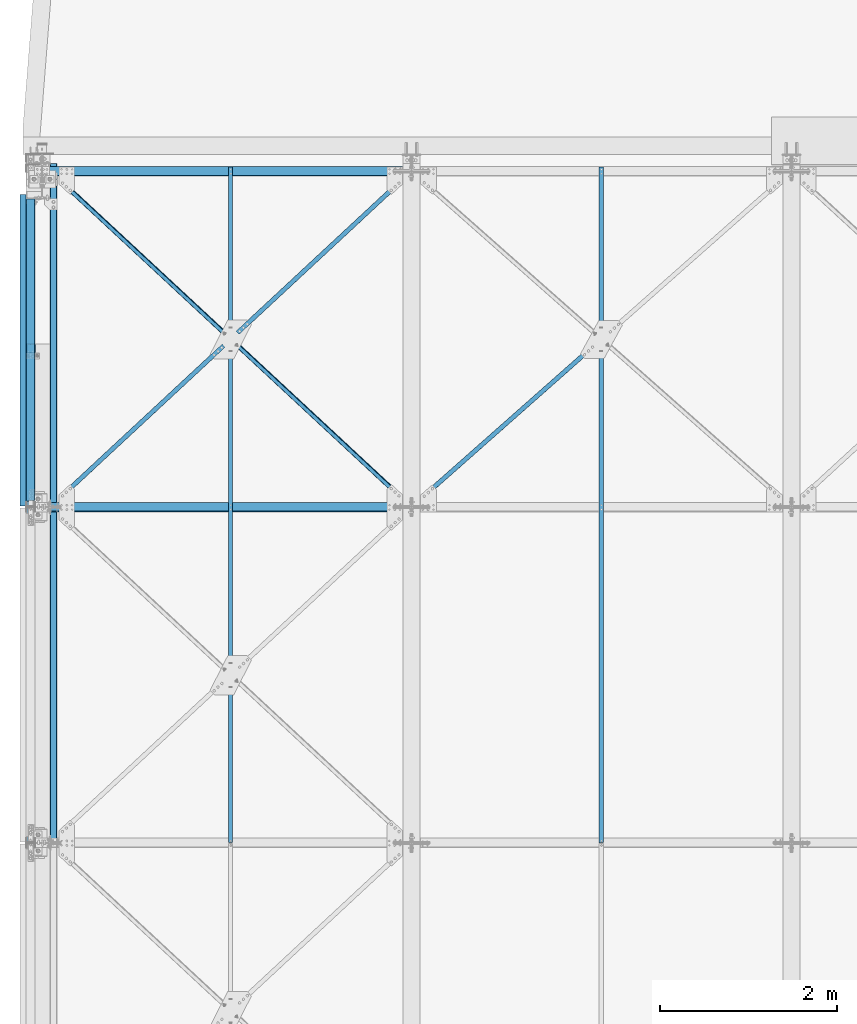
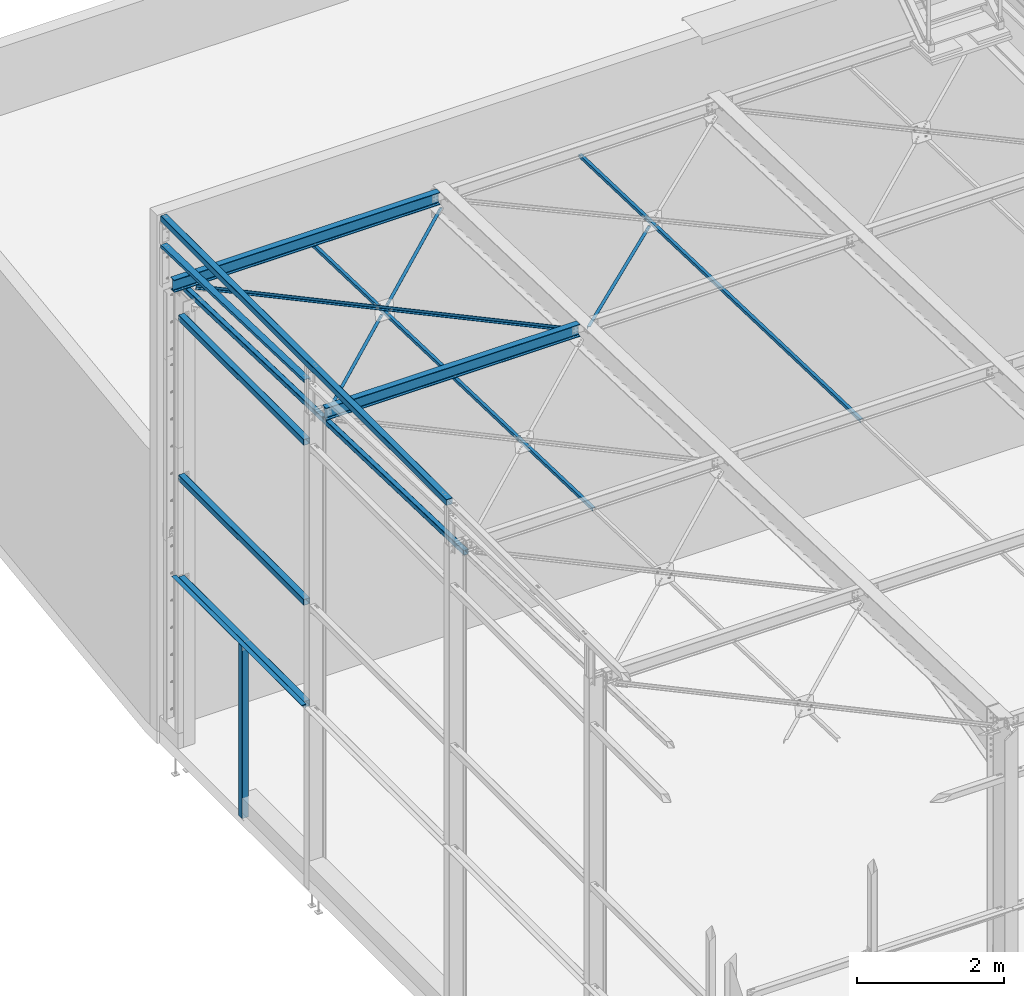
# One storey, part 44 of 362: 16 beams, 15 elements without a shape of their own.
"""IFC2X3 building model written with IfcOpenShell, lengths in millimetres."""

from ifc_helpers import new_model, si_unit, frame, origin_with_axes, origin_2d_with_axis, place, context, subcontext, project, spatial, polyline, hollow_rectangle, i_section, l_section, u_section, outline, extrude, boolean, clip, halfspace, material, type_object, element, aggregate, save


model = new_model("IFC2X3")

# Units and contexts
model_context = context("Model", 3, precision=1e-05, world=origin_with_axes())
body_context = subcontext(model_context, "Body", "Model", "MODEL_VIEW")
ifc_project = project(units=[si_unit("LENGTHUNIT", "METRE", prefix="MILLI"), si_unit("AREAUNIT", "SQUARE_METRE"), si_unit("VOLUMEUNIT", "CUBIC_METRE"), si_unit("MASSUNIT", "GRAM", prefix="KILO"), si_unit("TIMEUNIT", "SECOND"), si_unit("PLANEANGLEUNIT", "RADIAN"), si_unit("SOLIDANGLEUNIT", "STERADIAN"), si_unit("THERMODYNAMICTEMPERATUREUNIT", "DEGREE_CELSIUS"), si_unit("LUMINOUSINTENSITYUNIT", "LUMEN")], contexts=[model_context])

# Site, building, storey
site_placement = place(None, origin_with_axes())
site = spatial("IfcSite", under=ifc_project, at=site_placement, Name="Undefined", CompositionType="ELEMENT")
building_placement = place(site_placement, origin_with_axes())
building = spatial("IfcBuilding", under=site, at=building_placement, Name="Undefined", CompositionType="ELEMENT")
storey_placement = place(building_placement, origin_with_axes())
storey = spatial("IfcBuildingStorey", under=building, at=storey_placement, Name="Undefined", CompositionType="ELEMENT", Elevation=0.0)

# Assembly, beam
assembly_1_placement = place(storey_placement, origin_with_axes())
assembly_1 = element("IfcElementAssembly", 1, at=assembly_1_placement, inside=storey, AssemblyPlace="NOTDEFINED", PredefinedType="NOTDEFINED")
ifc_material_1 = material(Name="Undefined/S235-E24")
beam_type_1 = type_object("IfcBeamType", Name="L50*5", PredefinedType="NOTDEFINED")
beam_1_placement = place(assembly_1_placement, frame((6327.00001266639, 7601.07123855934, 7586.01904275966), z_axis=(1.0, 0.0, 0.0), x_axis=(3.14103090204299e-11, 0.999506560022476, -0.0314107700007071)))
beam_1 = element("IfcBeam", 2, at=beam_1_placement, type_object=beam_type_1, material=ifc_material_1, Name="LIERNE", ObjectType="L50*5", context=body_context, shape_type="SweptSolid", body=[
    extrude(l_section(Depth=50.0, Width=50.0, Thickness=5.0, FilletRadius=7.0, EdgeRadius=3.5, at=origin_2d_with_axis()), frame((7648.75199419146, 0.0, 0.0), z_axis=(-1.0, 0.0, 0.0), x_axis=(0.0, -1.0, 0.0)), (0.0, 0.0, 1.0), 7648.75),
])
aggregate(assembly_1, [beam_1])

assembly_2_placement = place(storey_placement, origin_with_axes())
assembly_2 = element("IfcElementAssembly", 3, at=assembly_2_placement, inside=storey, AssemblyPlace="NOTDEFINED", PredefinedType="NOTDEFINED")
beam_2_placement = place(assembly_2_placement, frame((2132.95747872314, 13298.0808843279, 7400.97343607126), z_axis=(0.680837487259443, -0.732073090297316, 0.0230066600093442), x_axis=(0.732434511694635, 0.680501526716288, -0.0213859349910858)))
beam_2 = element("IfcBeam", 4, at=beam_2_placement, type_object=beam_type_1, material=ifc_material_1, Name="STABILITE CVT", ObjectType="L50*5", context=body_context, shape_type="Clipping", body=[
    clip(clip(extrude(l_section(Depth=50.0, Width=50.0, Thickness=5.0, FilletRadius=7.0, EdgeRadius=3.5, at=origin_2d_with_axis()), frame((2792.0585021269, 0.0, -9.94557782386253e-13), z_axis=(-1.0, 0.0, 0.0), x_axis=(0.0, -1.0, 0.0)), (0.0, 0.0, 1.0), 2736.72), halfspace(frame((2629.60191761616, 24.9946613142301, 24.996458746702), z_axis=(0.999999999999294, 3.87284877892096e-07, -1.12347404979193e-06), x_axis=(-1.12347383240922e-06, -5.61299022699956e-07, -0.999999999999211)), False)), halfspace(frame((106.894615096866, 31.0043411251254, 25.0000010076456), z_axis=(1.0, 0.0, 0.0), x_axis=(0.0, 1.0, 0.0)), True)),
])
aggregate(assembly_2, [beam_2])

assembly_3_placement = place(storey_placement, origin_with_axes())
assembly_3 = element("IfcElementAssembly", 5, at=assembly_3_placement, inside=storey, AssemblyPlace="NOTDEFINED", PredefinedType="NOTDEFINED")
beam_3_placement = place(assembly_3_placement, frame((2132.00001266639, 7601.07123857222, 7586.01904275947), z_axis=(1.0, 0.0, 0.0), x_axis=(3.14103090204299e-11, 0.999506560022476, -0.0314107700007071)))
beam_3 = element("IfcBeam", 6, at=beam_3_placement, type_object=beam_type_1, material=ifc_material_1, Name="LIERNE", ObjectType="L50*5", context=body_context, shape_type="SweptSolid", body=[
    extrude(l_section(Depth=50.0, Width=50.0, Thickness=5.0, FilletRadius=7.0, EdgeRadius=3.5, at=origin_2d_with_axis()), frame((7648.75199419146, 0.0, 0.0), z_axis=(-1.0, 0.0, 0.0), x_axis=(0.0, -1.0, 0.0)), (0.0, 0.0, 1.0), 7648.75),
])
aggregate(assembly_3, [beam_3])

assembly_4_placement = place(storey_placement, origin_with_axes())
assembly_4 = element("IfcElementAssembly", 7, at=assembly_4_placement, inside=storey, AssemblyPlace="NOTDEFINED", PredefinedType="NOTDEFINED")
beam_4_placement = place(assembly_4_placement, frame((4182.04254050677, 11399.8399519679, 7516.65952718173), z_axis=(-0.680837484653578, -0.732073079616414, 0.0230070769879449), x_axis=(-0.732434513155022, 0.680501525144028, -0.0213859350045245)))
beam_4 = element("IfcBeam", 8, at=beam_4_placement, type_object=beam_type_1, material=ifc_material_1, Name="STABILITE CVT", ObjectType="L50*5", context=body_context, shape_type="Clipping", body=[
    clip(clip(extrude(l_section(Depth=50.0, Width=50.0, Thickness=5.0, FilletRadius=7.0, EdgeRadius=3.5, at=origin_2d_with_axis()), frame((5584.11699845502, 9.2886849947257e-13, 1.41670895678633e-13), z_axis=(-1.0, 0.0, 0.0), x_axis=(0.0, -1.0, 0.0)), (0.0, 0.0, 1.0), 5584.12), halfspace(frame((5421.65334739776, -24.9999835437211, -25.0000000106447), z_axis=(1.0, 0.0, 0.0), x_axis=(0.0, 0.0, 1.0)), False)), halfspace(frame((162.4631484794, 24.9999835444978, -24.9999999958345), z_axis=(-1.0, 0.0, 0.0), x_axis=(0.0, 0.0, 1.0)), False)),
])
aggregate(assembly_4, [beam_4])

assembly_5_placement = place(storey_placement, origin_with_axes())
assembly_5 = element("IfcElementAssembly", 9, at=assembly_5_placement, inside=storey, AssemblyPlace="NOTDEFINED", PredefinedType="NOTDEFINED")
beam_5_placement = place(assembly_5_placement, frame((87.9574875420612, 11398.0808647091, 7460.68529693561), z_axis=(0.680837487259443, -0.732073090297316, 0.0230066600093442), x_axis=(0.732434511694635, 0.680501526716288, -0.0213859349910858)))
beam_5 = element("IfcBeam", 10, at=beam_5_placement, type_object=beam_type_1, material=ifc_material_1, Name="STABILITE CVT", ObjectType="L50*5", context=body_context, shape_type="Clipping", body=[
    clip(clip(extrude(l_section(Depth=50.0, Width=50.0, Thickness=5.0, FilletRadius=7.0, EdgeRadius=3.5, at=origin_2d_with_axis()), frame((2736.71685239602, 9.09494701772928e-13, 1.12639368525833e-12), z_axis=(-1.0, 0.0, 0.0), x_axis=(0.0, -1.0, 0.0)), (0.0, 0.0, 1.0), 2736.72), halfspace(frame((162.463643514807, -24.9999731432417, 25.0000104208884), z_axis=(-1.0, 0.0, 0.0), x_axis=(0.0, 0.0, -1.0)), False)), halfspace(frame((2685.16386215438, 31.0042426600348, -24.9999999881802), z_axis=(-1.0, 0.0, 0.0), x_axis=(0.0, 1.0, 0.0)), True)),
])
aggregate(assembly_5, [beam_5])

assembly_6_placement = place(storey_placement, origin_with_axes())
assembly_6 = element("IfcElementAssembly", 11, at=assembly_6_placement, inside=storey, AssemblyPlace="NOTDEFINED", PredefinedType="NOTDEFINED")
beam_6_placement = place(assembly_6_placement, frame((4178.01288164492, 11398.1305794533, 7460.68157151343), z_axis=(0.662381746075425, -0.748796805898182, 0.0235322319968), x_axis=(0.749166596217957, 0.662054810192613, -0.0208047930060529)))
beam_6 = element("IfcBeam", 12, at=beam_6_placement, type_object=beam_type_1, material=ifc_material_1, Name="STABILITE CVT", ObjectType="L50*5", context=body_context, shape_type="Clipping", body=[
    clip(clip(extrude(l_section(Depth=50.0, Width=50.0, Thickness=5.0, FilletRadius=7.0, EdgeRadius=3.5, at=origin_2d_with_axis()), frame((2816.1304739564, -9.192651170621e-13, -2.32658014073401e-13), z_axis=(-1.0, 0.0, 0.0), x_axis=(0.0, -1.0, 0.0)), (0.0, 0.0, 1.0), 2816.13), halfspace(frame((164.999927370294, -25.0001048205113, 24.9999605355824), z_axis=(-0.999999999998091, 1.45272125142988e-06, -1.3065366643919e-06), x_axis=(1.30653895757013e-06, 1.57853991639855e-06, -0.999999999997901)), False)), halfspace(frame((2764.85572224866, 31.0014349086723, -24.9999999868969), z_axis=(-0.999999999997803, 2.09199999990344e-06, -1.31999999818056e-07), x_axis=(1.69800000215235e-06, 0.999999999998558, 0.0)), True)),
])
aggregate(assembly_6, [beam_6])

assembly_7_placement = place(storey_placement, origin_with_axes())
assembly_7 = element("IfcElementAssembly", 13, at=assembly_7_placement, inside=storey, Name="LISSE", AssemblyPlace="NOTDEFINED", PredefinedType="NOTDEFINED")
beam_type_2 = type_object("IfcBeamType", Name="UPF-100*50*4", PredefinedType="NOTDEFINED")
beam_7_placement = place(assembly_7_placement, frame((-129.999999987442, 11400.0000000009, 8171.98873515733), z_axis=(1.0, 0.0, 0.0), x_axis=(0.0, 0.999505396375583, -0.0314477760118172)))
beam_7 = element("IfcBeam", 14, at=beam_7_placement, type_object=beam_type_2, material=ifc_material_1, Name="LISSE CONTREBARDAGE", ObjectType="UPF-100*50*4", context=body_context, shape_type="Clipping", body=[
    clip(clip(extrude(u_section(Depth=100.0, FlangeWidth=50.0, WebThickness=4.0, FlangeThickness=4.0, at=origin_2d_with_axis()), frame((3963.54849814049, 2.75026425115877e-14, 0.0), z_axis=(-1.0, 0.0, 0.0), x_axis=(0.0, -1.0, 0.0)), (0.0, 0.0, 1.0), 3900.11), halfspace(frame((3958.90732059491, 97.0106538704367, 50.0000002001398), z_axis=(-0.999505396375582, -0.0314477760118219, 0.0), x_axis=(0.0, 0.0, 1.0)), True)), halfspace(frame((63.1124105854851, 61.0156037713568, 50.0000002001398), z_axis=(-0.999505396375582, -0.0314477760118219, 0.0), x_axis=(0.0, 0.0, 1.0)), False)),
])
aggregate(assembly_7, [beam_7])

assembly_8_placement = place(storey_placement, origin_with_axes())
assembly_8 = element("IfcElementAssembly", 15, at=assembly_8_placement, inside=storey, Name="LISSE", AssemblyPlace="NOTDEFINED", PredefinedType="NOTDEFINED")
beam_type_3 = type_object("IfcBeamType", Name="TUBE-C-100*100*4", PredefinedType="NOTDEFINED")
beam_8_placement = place(assembly_8_placement, frame((-129.99999629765, 14880.0000059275, 4500.00000075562), z_axis=(0.0, 0.0, 1.0), x_axis=(0.0, -1.0, 0.0)))
beam_8 = element("IfcBeam", 16, at=beam_8_placement, type_object=beam_type_3, material=ifc_material_1, Name="LISSE CHASSIS", ObjectType="TUBE-C-100*100*4", context=body_context, shape_type="SweptSolid", body=[
    extrude(hollow_rectangle(XDim=100.0, YDim=100.0, WallThickness=4.0, InnerFilletRadius=4.0, OuterFilletRadius=8.0, at=origin_2d_with_axis()), frame((3405.00001460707, 0.0, 0.0), z_axis=(-1.0, 0.0, 0.0), x_axis=(0.0, -1.0, 0.0)), (0.0, 0.0, 1.0), 3405.0),
])
aggregate(assembly_8, [beam_8])

assembly_9_placement = place(storey_placement, origin_with_axes())
assembly_9 = element("IfcElementAssembly", 17, at=assembly_9_placement, inside=storey, Name="LISSE", AssemblyPlace="NOTDEFINED", PredefinedType="NOTDEFINED")
beam_9_placement = place(assembly_9_placement, frame((-129.999996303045, 14880.0000025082, 7149.99999273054), z_axis=(0.0, 0.0, -1.0), x_axis=(0.0, -1.0, 0.0)))
beam_9 = element("IfcBeam", 18, at=beam_9_placement, type_object=beam_type_3, material=ifc_material_1, Name="LISSE CHASSIS", ObjectType="TUBE-C-100*100*4", context=body_context, shape_type="SweptSolid", body=[
    extrude(hollow_rectangle(XDim=100.0, YDim=100.0, WallThickness=4.0, InnerFilletRadius=4.0, OuterFilletRadius=8.0, at=origin_2d_with_axis()), frame((3405.00001460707, 0.0, 0.0), z_axis=(-1.0, 0.0, 0.0), x_axis=(0.0, -1.0, 0.0)), (0.0, 0.0, 1.0), 3405.0),
])
aggregate(assembly_9, [beam_9])

assembly_10_placement = place(storey_placement, origin_with_axes())
assembly_10 = element("IfcElementAssembly", 19, at=assembly_10_placement, inside=storey, Name="LISSE", AssemblyPlace="NOTDEFINED", PredefinedType="NOTDEFINED")
beam_10_placement = place(assembly_10_placement, frame((-129.99999629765, 14880.000002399, 2810.00000064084), z_axis=(0.0, 0.0, 1.0), x_axis=(0.0, -1.0, 0.0)))
beam_10 = element("IfcBeam", 20, at=beam_10_placement, type_object=beam_type_3, material=ifc_material_1, Name="LISSE CHASSIS", ObjectType="TUBE-C-100*100*4", context=body_context, shape_type="SweptSolid", body=[
    extrude(hollow_rectangle(XDim=100.0, YDim=100.0, WallThickness=4.0, InnerFilletRadius=4.0, OuterFilletRadius=8.0, at=origin_2d_with_axis()), frame((3405.00001460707, 0.0, 0.0), z_axis=(-1.0, 0.0, 0.0), x_axis=(0.0, -1.0, 0.0)), (0.0, 0.0, 1.0), 3405.0),
])

assembly_11_placement = place(storey_placement, origin_with_axes())
assembly_11 = element("IfcElementAssembly", 21, at=assembly_11_placement, inside=storey, Name="MONTANT", AssemblyPlace="NOTDEFINED", PredefinedType="NOTDEFINED")
beam_11_placement = place(assembly_11_placement, frame((-130.000011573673, 13195.0066102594, 2755.00000052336), z_axis=(1.0, 0.0, 0.0), x_axis=(0.0, 0.0, -1.0)))
beam_11 = element("IfcBeam", 22, at=beam_11_placement, type_object=beam_type_3, material=ifc_material_1, Name="MONTANT", ObjectType="TUBE-C-100*100*4", context=body_context, shape_type="SweptSolid", body=[
    extrude(hollow_rectangle(XDim=100.0, YDim=100.0, WallThickness=4.0, InnerFilletRadius=4.0, OuterFilletRadius=8.0, at=origin_2d_with_axis()), frame((2850.00000064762, 0.0, 0.0), z_axis=(-1.0, 0.0, 0.0), x_axis=(0.0, -1.0, 0.0)), (0.0, 0.0, 1.0), 2850.0),
])
aggregate(assembly_11, [beam_11])

assembly_12_placement = place(storey_placement, origin_with_axes())
assembly_12 = element("IfcElementAssembly", 23, at=assembly_12_placement, inside=storey, Name="LISSE", AssemblyPlace="NOTDEFINED", PredefinedType="NOTDEFINED")
beam_12_placement = place(assembly_12_placement, frame((-129.999999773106, 15359.9999999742, 8500.00000002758), z_axis=(0.0, 0.0, 1.0), x_axis=(0.0, -1.0, 0.0)))
beam_12 = element("IfcBeam", 24, at=beam_12_placement, type_object=beam_type_3, material=ifc_material_1, Name="LISSE ACROTERE", ObjectType="TUBE-C-100*100*4", context=body_context, shape_type="SweptSolid", body=[
    extrude(hollow_rectangle(XDim=100.0, YDim=100.0, WallThickness=4.0, InnerFilletRadius=4.0, OuterFilletRadius=8.0, at=origin_2d_with_axis()), frame((7755.0, 0.0, 0.0), z_axis=(-1.0, 0.0, 0.0), x_axis=(0.0, -1.0, 0.0)), (0.0, 0.0, 1.0), 7755.0),
])
aggregate(assembly_12, [beam_12])

# Beam
beam_type_4 = type_object("IfcBeamType", Name="L70*7", PredefinedType="NOTDEFINED")
beam_13_placement = place(assembly_10_placement, frame((-215.000001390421, 14940.00000213, 2824.99999998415), z_axis=(-1.0, 0.0, 0.0), x_axis=(0.0, -1.0, 0.0)))
beam_13 = element("IfcBeam", 25, at=beam_13_placement, type_object=beam_type_4, material=ifc_material_1, Name="LISSE CHASSIS", ObjectType="L70*7", context=body_context, shape_type="CSG", body=[
    boolean("DIFFERENCE", extrude(l_section(Depth=70.0, Width=70.0, Thickness=7.0, FilletRadius=9.0, EdgeRadius=4.5, at=origin_2d_with_axis()), frame((3530.00000340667, 0.0, 0.0), z_axis=(-1.0, 0.0, 0.0), x_axis=(0.0, -1.0, 0.0)), (0.0, 0.0, 1.0), 3530.0), extrude(outline(polyline([(0.0, 0.0), (63.0, -1.16415321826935e-10), (62.9999999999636, 39.9999999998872), (-7.20213847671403e-07, 40.0), (0.0, 0.0)])), frame((109.996850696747, -35.0, -37.5), z_axis=(0.0, 0.0, 1.0), x_axis=(0.0, 1.0, 0.0)), (0.0, 0.0, 1.0), 75.0)),
])

aggregate(assembly_10, [beam_13, beam_10])

# Assembly, beam
assembly_13_placement = place(storey_placement, origin_with_axes())
assembly_13 = element("IfcElementAssembly", 26, at=assembly_13_placement, inside=storey, AssemblyPlace="NOTDEFINED", PredefinedType="NOTDEFINED")
beam_type_5 = type_object("IfcBeamType", Name="TUBE-C-80*80*4", PredefinedType="NOTDEFINED")
beam_14_placement = place(assembly_13_placement, frame((130.000000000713, 7598.74356920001, 7571.08129582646), z_axis=(-1.05403257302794e-09, -0.0314112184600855, -0.999506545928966), x_axis=(3.14103090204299e-11, 0.999506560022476, -0.0314107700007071)))
beam_14 = element("IfcBeam", 27, at=beam_14_placement, type_object=beam_type_5, material=ifc_material_1, Name="RAMASSE PANNE", ObjectType="TUBE-C-80*80*4", context=body_context, shape_type="Clipping", body=[
    clip(clip(extrude(hollow_rectangle(XDim=80.0, YDim=80.0, WallThickness=4.0, InnerFilletRadius=4.0, OuterFilletRadius=8.0, at=origin_2d_with_axis()), frame((7697.59272339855, 0.0, 0.0), z_axis=(-1.0, 0.0, 0.0), x_axis=(0.0, -1.0, 0.0)), (0.0, 0.0, 1.0), 7693.87), halfspace(frame((7694.85502608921, -130.000000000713, -6.31491058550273), z_axis=(0.999506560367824, 0.0, -0.0314107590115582), x_axis=(0.0, -1.0, 0.0)), False)), halfspace(frame((7.68193313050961, -130.000000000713, 45.2619199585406), z_axis=(-0.999506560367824, 0.0, 0.0314107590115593), x_axis=(0.0, -1.0, 0.0)), False)),
])
aggregate(assembly_13, [beam_14])

assembly_14_placement = place(storey_placement, origin_with_axes())
assembly_14 = element("IfcElementAssembly", 28, at=assembly_14_placement, inside=storey, AssemblyPlace="NOTDEFINED", PredefinedType="NOTDEFINED")
ifc_material_2 = material(Name="Undefined/S275-E28")
beam_type_6 = type_object("IfcBeamType", Name="IPE200", PredefinedType="NOTDEFINED")
beam_15_placement = place(assembly_14_placement, frame((100.000000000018, 11400.0005139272, 7591.6893913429), z_axis=(7.58071938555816e-11, 0.0314107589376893, 0.999506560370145), x_axis=(1.0, 0.0, 0.0)))
beam_15 = element("IfcBeam", 29, at=beam_15_placement, type_object=beam_type_6, material=ifc_material_2, Name="PANNE", ObjectType="IPE200", context=body_context, shape_type="SweptSolid", body=[
    extrude(i_section(OverallWidth=100.0, OverallDepth=200.0, WebThickness=5.599999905, FlangeThickness=8.5, FilletRadius=12.0, at=origin_2d_with_axis()), frame((3980.00000000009, 0.0, 0.0), z_axis=(-1.0, 0.0, 0.0), x_axis=(0.0, -1.0, 0.0)), (0.0, 0.0, 1.0), 3980.0),
])
aggregate(assembly_14, [beam_15])

assembly_15_placement = place(storey_placement, origin_with_axes())
assembly_15 = element("IfcElementAssembly", 30, at=assembly_15_placement, inside=storey, AssemblyPlace="NOTDEFINED", PredefinedType="NOTDEFINED")
beam_16_placement = place(assembly_15_placement, frame((-85.0000008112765, 15199.9999999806, 7472.27130559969), z_axis=(7.58071938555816e-11, 0.0314107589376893, 0.999506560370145), x_axis=(1.0, 0.0, 0.0)))
beam_16 = element("IfcBeam", 31, at=beam_16_placement, type_object=beam_type_6, material=ifc_material_2, Name="PANNE", ObjectType="IPE200", context=body_context, shape_type="SweptSolid", body=[
    extrude(i_section(OverallWidth=100.0, OverallDepth=200.0, WebThickness=5.599999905, FlangeThickness=8.5, FilletRadius=12.0, at=origin_2d_with_axis()), frame((4164.99999999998, 0.0, 0.0), z_axis=(-1.0, 0.0, 0.0), x_axis=(0.0, -1.0, 0.0)), (0.0, 0.0, 1.0), 4165.0),
])
aggregate(assembly_15, [beam_16])

save(model, "model.ifc")
